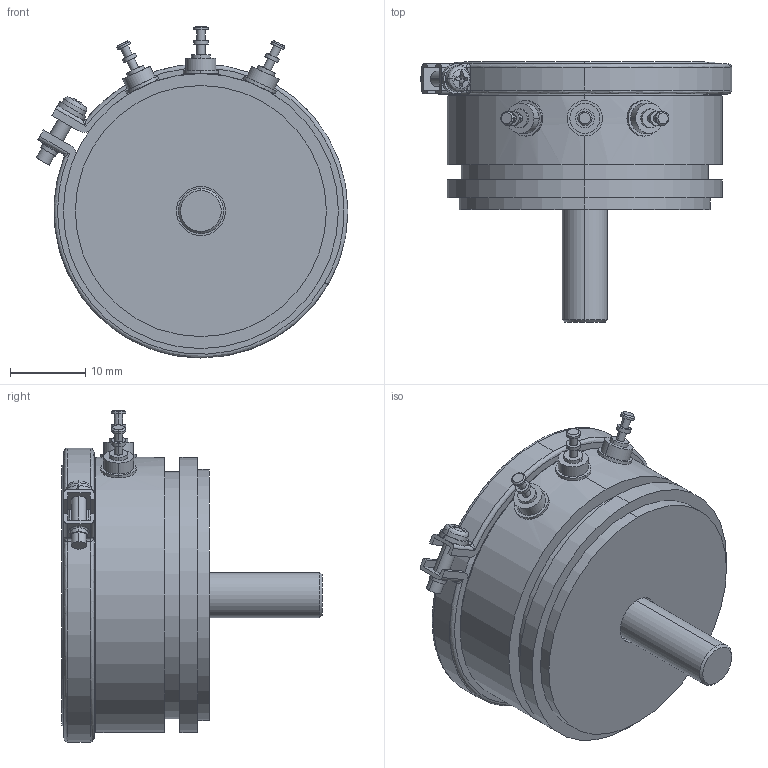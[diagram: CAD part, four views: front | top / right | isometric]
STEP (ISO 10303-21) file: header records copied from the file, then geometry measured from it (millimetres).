
FILE_DESCRIPTION (( 'STEP AP214' ), '1' );
FILE_NAME ('MCP40-Step-AP214.STEP', '2009-10-20T11:37:39', ( ' ' ), ( ' ' ), 'SwSTEP 2.0', 'SolidWorks 2007', '' );
FILE_SCHEMA (( 'AUTOMOTIVE_DESIGN' ));
Length unit declared in the file: millimetre
Products named in the file (1): MCP40-Step-AP214
Bounding box: 41.35 x 34.5 x 44.05 mm (x, y, z)
Volume: 12204.8 mm3; surface area: 11071.5 mm2
Topology: 7 solids, 7 shells, 795 faces, 2152 edges, 1413 vertices
Faces by surface type: plane 339, cylinder 278, cone 164, bspline 14
Entity records: 26673 total; most frequent: CARTESIAN_POINT 7058, ORIENTED_EDGE 4284, DIRECTION 3876, EDGE_CURVE 2142, AXIS2_PLACEMENT_3D 1501, VERTEX_POINT 1413, VECTOR 874, LINE 874
